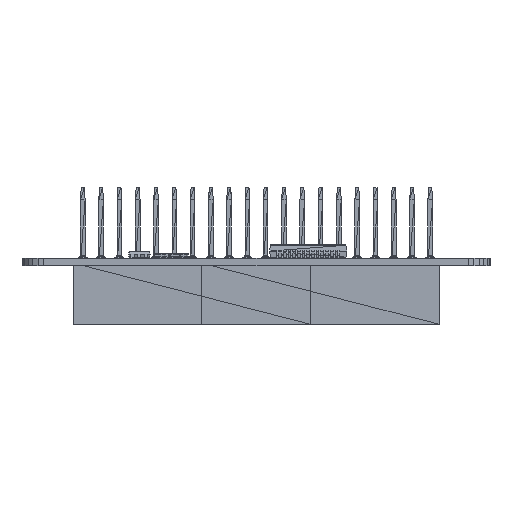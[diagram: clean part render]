
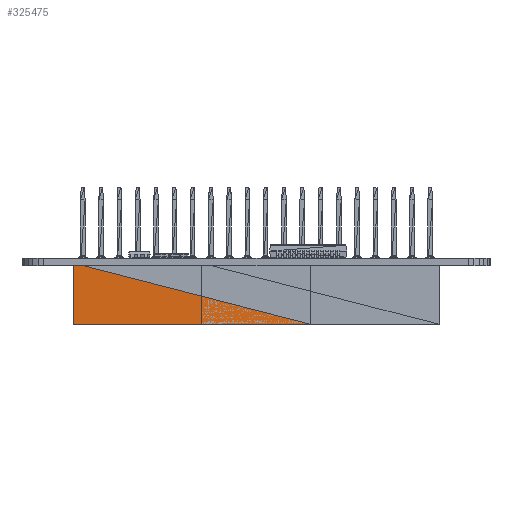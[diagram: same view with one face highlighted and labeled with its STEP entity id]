
A CAD part, front view. The second image highlights one B-rep face of the part: STEP entity #325475.
In plain terms, the highlighted planar face has unit normal (0, -1, 0) as drawn and (0, 0, -1) by its records, which use the part's own axes.
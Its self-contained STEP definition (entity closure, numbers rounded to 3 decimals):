
#26673=FACE_OUTER_BOUND('',#53840,.T.);
#53840=EDGE_LOOP('',(#267969,#267970,#267971));
#93378=LINE('',#528120,#133809);
#93387=LINE('',#528137,#133818);
#93388=LINE('',#528139,#133819);
#133809=VECTOR('',#443619,1.);
#133818=VECTOR('',#443636,1.);
#133819=VECTOR('',#443639,1.);
#149811=VERTEX_POINT('',#528113);
#149813=VERTEX_POINT('',#528119);
#149817=VERTEX_POINT('',#528135);
#188932=EDGE_CURVE('',#149811,#149813,#93378,.T.);
#188941=EDGE_CURVE('',#149817,#149811,#93387,.T.);
#188942=EDGE_CURVE('',#149813,#149817,#93388,.T.);
#267969=ORIENTED_EDGE('',*,*,#188932,.F.);
#267970=ORIENTED_EDGE('',*,*,#188941,.F.);
#267971=ORIENTED_EDGE('',*,*,#188942,.F.);
#298488=PLANE('',#353044);
#325475=ADVANCED_FACE('',(#26673),#298488,.F.);
#353044=AXIS2_PLACEMENT_3D('',#528138,#443637,#443638);
#443619=DIRECTION('',(0.968,0.249,0.));
#443636=DIRECTION('',(0.,-1.,0.));
#443637=DIRECTION('center_axis',(0.,0.,1.));
#443638=DIRECTION('ref_axis',(0.,1.,0.));
#443639=DIRECTION('',(-1.,0.,0.));
#528113=CARTESIAN_POINT('',(-34.335,10.648,-1.253));
#528119=CARTESIAN_POINT('',(-1.315,19.148,-1.253));
#528120=CARTESIAN_POINT('',(-34.335,10.648,-1.253));
#528135=CARTESIAN_POINT('',(-34.335,19.148,-1.253));
#528137=CARTESIAN_POINT('',(-34.335,19.148,-1.253));
#528138=CARTESIAN_POINT('Origin',(-1.315,19.148,-1.253));
#528139=CARTESIAN_POINT('',(-1.315,19.148,-1.253));
